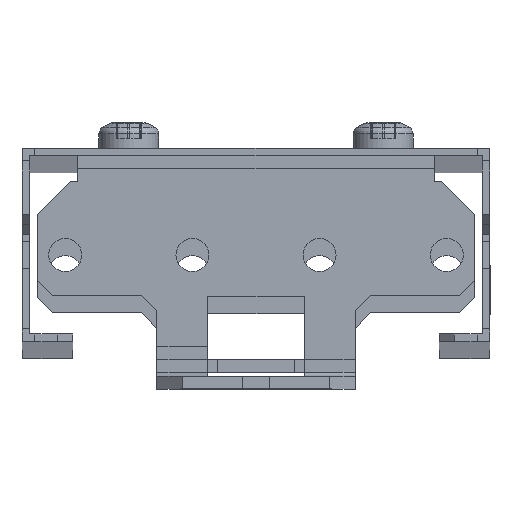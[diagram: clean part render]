
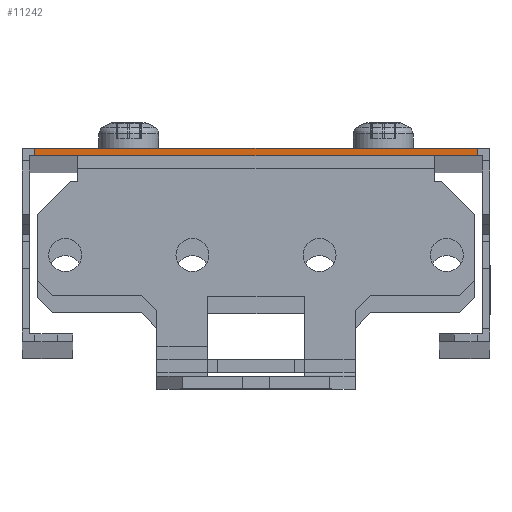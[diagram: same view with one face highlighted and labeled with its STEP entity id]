
A CAD part, top view. The second image highlights one B-rep face of the part: STEP entity #11242.
In plain terms, the highlighted planar face has unit normal (0, 0, 1).
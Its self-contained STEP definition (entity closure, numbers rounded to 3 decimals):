
#2487 = LINE ( 'NONE', #42413, #77494 ) ;
#3952 = CARTESIAN_POINT ( 'NONE',  ( -43.5, 19.5, 962.5 ) ) ;
#5376 = DIRECTION ( 'NONE',  ( 1., 0., 0. ) ) ;
#6174 = VERTEX_POINT ( 'NONE', #3952 ) ;
#6259 = DIRECTION ( 'NONE',  ( 1., 0., 0. ) ) ;
#6783 = EDGE_CURVE ( 'NONE', #8626, #19845, #40707, .T. ) ;
#7917 = ORIENTED_EDGE ( 'NONE', *, *, #6783, .T. ) ;
#8626 = VERTEX_POINT ( 'NONE', #62363 ) ;
#9334 = DIRECTION ( 'NONE',  ( 1., 0., 0. ) ) ;
#11007 = CARTESIAN_POINT ( 'NONE',  ( 43.5, 21., 962.5 ) ) ;
#11242 = ADVANCED_FACE ( 'NONE', ( #19517 ), #38430, .T. ) ;
#16320 = VERTEX_POINT ( 'NONE', #48982 ) ;
#16916 = VECTOR ( 'NONE', #32665, 1000. ) ;
#16959 = CARTESIAN_POINT ( 'NONE',  ( 43.5, 19.5, 962.5 ) ) ;
#17551 = DIRECTION ( 'NONE',  ( 0., 1., 0. ) ) ;
#17725 = ORIENTED_EDGE ( 'NONE', *, *, #29723, .T. ) ;
#19517 = FACE_OUTER_BOUND ( 'NONE', #76180, .T. ) ;
#19553 = LINE ( 'NONE', #65054, #29429 ) ;
#19845 = VERTEX_POINT ( 'NONE', #41272 ) ;
#26753 = EDGE_CURVE ( 'NONE', #16320, #33842, #58425, .T. ) ;
#29429 = VECTOR ( 'NONE', #6259, 1000. ) ;
#29723 = EDGE_CURVE ( 'NONE', #6174, #8626, #2487, .T. ) ;
#29724 = LINE ( 'NONE', #49889, #70661 ) ;
#30844 = ORIENTED_EDGE ( 'NONE', *, *, #26753, .F. ) ;
#31901 = ORIENTED_EDGE ( 'NONE', *, *, #62016, .F. ) ;
#32665 = DIRECTION ( 'NONE',  ( 1., 0., 0. ) ) ;
#33842 = VERTEX_POINT ( 'NONE', #11007 ) ;
#35993 = ORIENTED_EDGE ( 'NONE', *, *, #65157, .T. ) ;
#38430 = PLANE ( 'NONE',  #75031 ) ;
#40707 = LINE ( 'NONE', #59573, #83984 ) ;
#41244 = VECTOR ( 'NONE', #17551, 1000. ) ;
#41272 = CARTESIAN_POINT ( 'NONE',  ( 35., 19.5, 962.5 ) ) ;
#42413 = CARTESIAN_POINT ( 'NONE',  ( -43., 19.5, 962.5 ) ) ;
#48982 = CARTESIAN_POINT ( 'NONE',  ( -43.5, 21., 962.5 ) ) ;
#49889 = CARTESIAN_POINT ( 'NONE',  ( -43.5, 19.5, 962.5 ) ) ;
#50181 = LINE ( 'NONE', #76346, #41244 ) ;
#58425 = LINE ( 'NONE', #66091, #16916 ) ;
#59573 = CARTESIAN_POINT ( 'NONE',  ( -43., 19.5, 962.5 ) ) ;
#59985 = EDGE_CURVE ( 'NONE', #19845, #74644, #19553, .T. ) ;
#62016 = EDGE_CURVE ( 'NONE', #6174, #16320, #29724, .T. ) ;
#62363 = CARTESIAN_POINT ( 'NONE',  ( -35., 19.5, 962.5 ) ) ;
#62760 = DIRECTION ( 'NONE',  ( 0., 1., 0. ) ) ;
#65054 = CARTESIAN_POINT ( 'NONE',  ( -43., 19.5, 962.5 ) ) ;
#65157 = EDGE_CURVE ( 'NONE', #74644, #33842, #50181, .T. ) ;
#66091 = CARTESIAN_POINT ( 'NONE',  ( -43., 21., 962.5 ) ) ;
#66845 = DIRECTION ( 'NONE',  ( 1., 0., 0. ) ) ;
#67510 = ORIENTED_EDGE ( 'NONE', *, *, #59985, .T. ) ;
#70620 = DIRECTION ( 'NONE',  ( 0., 0., 1. ) ) ;
#70661 = VECTOR ( 'NONE', #62760, 1000. ) ;
#74644 = VERTEX_POINT ( 'NONE', #16959 ) ;
#75031 = AXIS2_PLACEMENT_3D ( 'NONE', #83901, #70620, #5376 ) ;
#76180 = EDGE_LOOP ( 'NONE', ( #30844, #31901, #17725, #7917, #67510, #35993 ) ) ;
#76346 = CARTESIAN_POINT ( 'NONE',  ( 43.5, 19.5, 962.5 ) ) ;
#77494 = VECTOR ( 'NONE', #9334, 1000. ) ;
#83901 = CARTESIAN_POINT ( 'NONE',  ( -43., 19.5, 962.5 ) ) ;
#83984 = VECTOR ( 'NONE', #66845, 1000. ) ;
